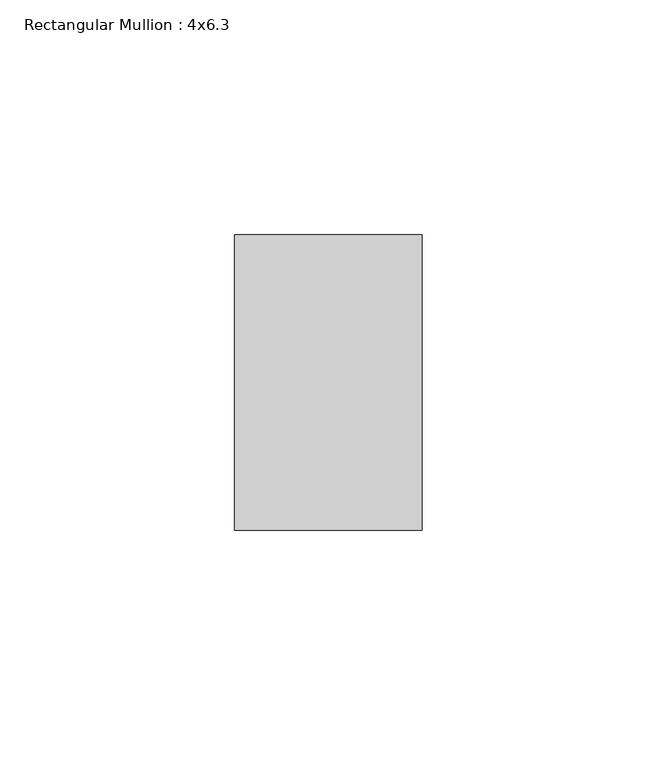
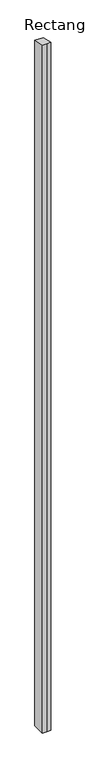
"""IFC4 building model written with IfcOpenShell, lengths in millimetres: member geometry, Rectangular Mullion : 4x6.3."""

from ifc_helpers import new_model, si_unit, origin, place, context, project, spatial, faceted_brep, source, transform, mapped, element, save


def rectangular_mullion_4x6_3_77a320bb(model_context):
    return source(origin(), model_context, "Body", "Brep", [
        faceted_brep([(-20.0, 20.0, -3535.1315686), (-20.0, 83.0, -3535.1315686), (20.0, 83.0, -3535.1315686), (20.0, 20.0, -3535.1315686), (0.0, 20.0, -3535.1315686), (0.0, 20.0, -4.3995804), (-20.0, 20.0, -4.3995804), (20.0, 20.0, -4.3995804), (20.0, 83.0, -18.2582585), (-20.0, 83.0, -18.2582585)], [[[0, 1, 2, 3, 4]], [[5, 6, 0, 4]], [[7, 5, 4, 3]], [[8, 7, 3, 2]], [[9, 8, 2, 1]], [[6, 9, 1, 0]], [[6, 5, 7, 8, 9]]]),
    ])


if __name__ == "__main__":
    model = new_model("IFC4")
    model_context = context("Model", 3, world=origin())
    ifc_project = project(units=[si_unit("LENGTHUNIT", "METRE", prefix="MILLI")], contexts=[model_context])
    site = spatial("IfcSite", under=ifc_project)
    building = spatial("IfcBuilding", under=site)
    placement = place(None, origin())
    rectangular_mullion_4x6_3_shape = rectangular_mullion_4x6_3_77a320bb(model_context)
    element("IfcMember", 1, ObjectType="Rectangular Mullion : 4x6.3", at=placement, inside=building, context=model_context, shape_type="MappedRepresentation", body=[
        mapped(rectangular_mullion_4x6_3_shape, transform((0.0, 0.0, 0.0), x_axis=(1.0, 0.0, 0.0), y_axis=(0.0, 1.0, 0.0), z_axis=(0.0, 0.0, 1.0))),
    ])
    save(model, "model.ifc")
